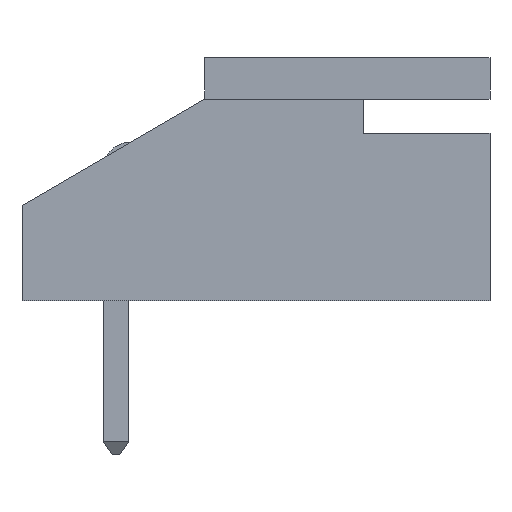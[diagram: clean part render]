
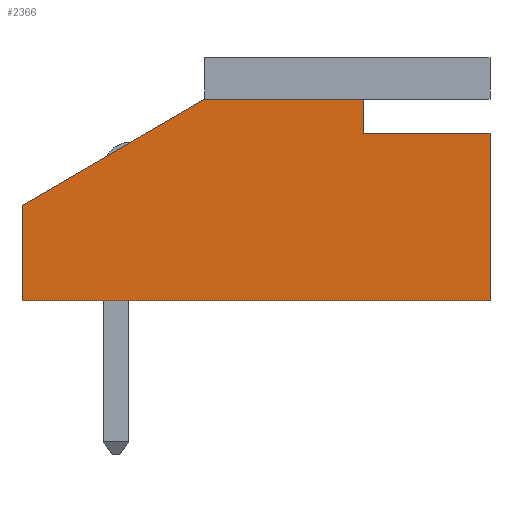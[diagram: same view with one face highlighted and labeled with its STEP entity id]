
A CAD part, left-side view. The second image highlights one B-rep face of the part: STEP entity #2366.
In plain terms, the highlighted planar face has unit normal (-1, 0, 0).
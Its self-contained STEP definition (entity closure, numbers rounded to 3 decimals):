
#2156 = VERTEX_POINT('',#2157);
#2157 = CARTESIAN_POINT('',(-3.708,-2.184,4.966));
#2162 = EDGE_CURVE('',#2163,#2156,#2165,.T.);
#2163 = VERTEX_POINT('',#2164);
#2164 = CARTESIAN_POINT('',(-3.708,2.311,2.35));
#2165 = LINE('',#2166,#2167);
#2166 = CARTESIAN_POINT('',(-3.708,2.311,2.35));
#2167 = VECTOR('',#2168,1.);
#2168 = DIRECTION('',(0.,-0.864,0.503));
#2192 = VERTEX_POINT('',#2193);
#2193 = CARTESIAN_POINT('',(-3.708,-6.096,4.966));
#2198 = EDGE_CURVE('',#2156,#2192,#2199,.T.);
#2199 = LINE('',#2200,#2201);
#2200 = CARTESIAN_POINT('',(-3.708,-2.184,4.966));
#2201 = VECTOR('',#2202,1.);
#2202 = DIRECTION('',(0.,-1.,0.));
#2222 = VERTEX_POINT('',#2223);
#2223 = CARTESIAN_POINT('',(-3.708,-6.096,4.128));
#2228 = EDGE_CURVE('',#2192,#2222,#2229,.T.);
#2229 = LINE('',#2230,#2231);
#2230 = CARTESIAN_POINT('',(-3.708,-6.096,4.966));
#2231 = VECTOR('',#2232,1.);
#2232 = DIRECTION('',(0.,0.,-1.));
#2252 = VERTEX_POINT('',#2253);
#2253 = CARTESIAN_POINT('',(-3.708,-9.195,4.128));
#2258 = EDGE_CURVE('',#2222,#2252,#2259,.T.);
#2259 = LINE('',#2260,#2261);
#2260 = CARTESIAN_POINT('',(-3.708,-6.096,4.128));
#2261 = VECTOR('',#2262,1.);
#2262 = DIRECTION('',(0.,-1.,0.));
#2282 = VERTEX_POINT('',#2283);
#2283 = CARTESIAN_POINT('',(-3.708,-9.195,0.013));
#2288 = EDGE_CURVE('',#2252,#2282,#2289,.T.);
#2289 = LINE('',#2290,#2291);
#2290 = CARTESIAN_POINT('',(-3.708,-9.195,4.128));
#2291 = VECTOR('',#2292,1.);
#2292 = DIRECTION('',(0.,0.,-1.));
#2312 = VERTEX_POINT('',#2313);
#2313 = CARTESIAN_POINT('',(-3.708,2.311,0.013));
#2318 = EDGE_CURVE('',#2282,#2312,#2319,.T.);
#2319 = LINE('',#2320,#2321);
#2320 = CARTESIAN_POINT('',(-3.708,-9.195,0.013));
#2321 = VECTOR('',#2322,1.);
#2322 = DIRECTION('',(0.,1.,0.));
#2340 = EDGE_CURVE('',#2312,#2163,#2341,.T.);
#2341 = LINE('',#2342,#2343);
#2342 = CARTESIAN_POINT('',(-3.708,2.311,0.013));
#2343 = VECTOR('',#2344,1.);
#2344 = DIRECTION('',(0.,0.,1.));
#2366 = ADVANCED_FACE('',(#2367),#2376,.T.);
#2367 = FACE_BOUND('',#2368,.F.);
#2368 = EDGE_LOOP('',(#2369,#2370,#2371,#2372,#2373,#2374,#2375));
#2369 = ORIENTED_EDGE('',*,*,#2162,.T.);
#2370 = ORIENTED_EDGE('',*,*,#2198,.T.);
#2371 = ORIENTED_EDGE('',*,*,#2228,.T.);
#2372 = ORIENTED_EDGE('',*,*,#2258,.T.);
#2373 = ORIENTED_EDGE('',*,*,#2288,.T.);
#2374 = ORIENTED_EDGE('',*,*,#2318,.T.);
#2375 = ORIENTED_EDGE('',*,*,#2340,.T.);
#2376 = PLANE('',#2377);
#2377 = AXIS2_PLACEMENT_3D('',#2378,#2379,#2380);
#2378 = CARTESIAN_POINT('',(-3.708,2.311,2.35));
#2379 = DIRECTION('',(-1.,0.,0.));
#2380 = DIRECTION('',(0.,-0.98,-0.199));
